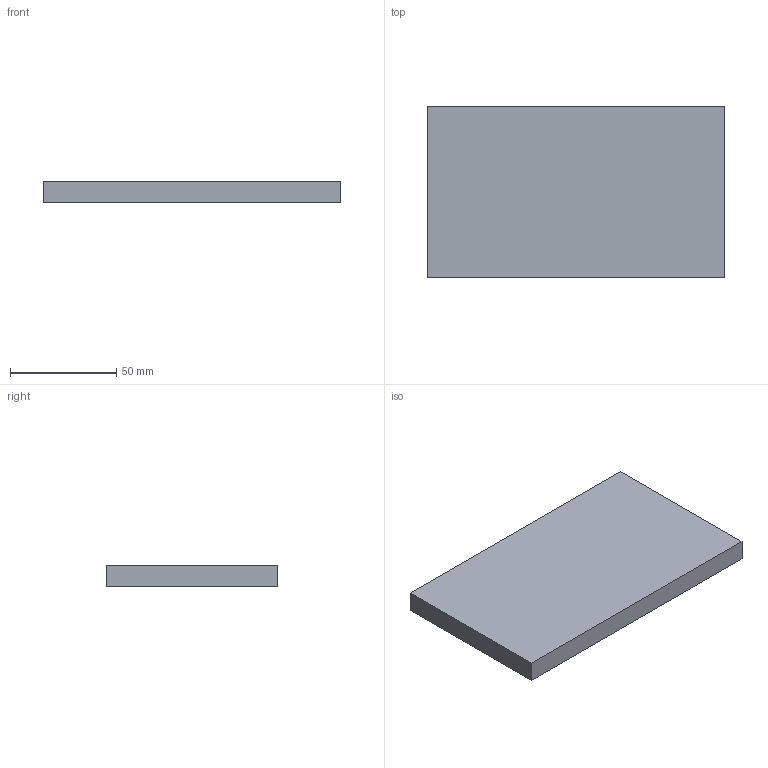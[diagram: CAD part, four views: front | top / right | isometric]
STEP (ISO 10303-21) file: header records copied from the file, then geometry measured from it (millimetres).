
FILE_DESCRIPTION(('Open CASCADE Model'),'2;1');
FILE_NAME('Open CASCADE Shape Model','2026-11-03T16:02:57',('Author'),( 'Open CASCADE'),'Open CASCADE STEP processor 8.0','build123d', 'Unknown');
FILE_SCHEMA(('AUTOMOTIVE_DESIGN { 1 0 10303 214 1 1 1 1 }'));
Length unit declared in the file: millimetre
Products named in the file (1): COMPOUND
Bounding box: 140.35 x 81 x 10 mm (x, y, z)
Volume: 76207.9 mm3; surface area: 48613.3 mm2
Topology: 1 solids, 1 shells, 13 faces, 36 edges, 24 vertices
Faces by surface type: plane 13
Entity records: 880 total; most frequent: CARTESIAN_POINT 158, DIRECTION 124, LINE 96, VECTOR 96, ORIENTED_EDGE 72, PCURVE 72, DEFINITIONAL_REPRESENTATION 72, EDGE_CURVE 36
